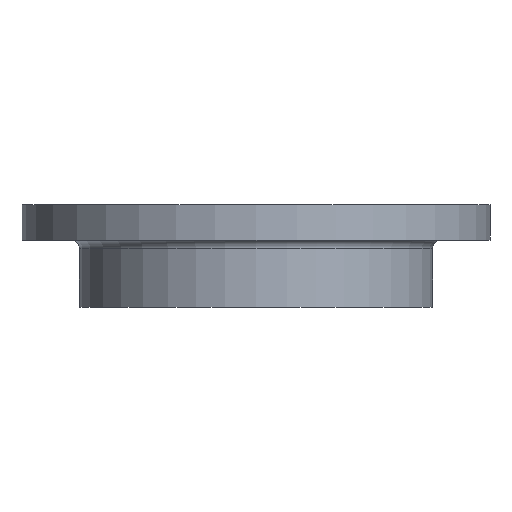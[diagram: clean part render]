
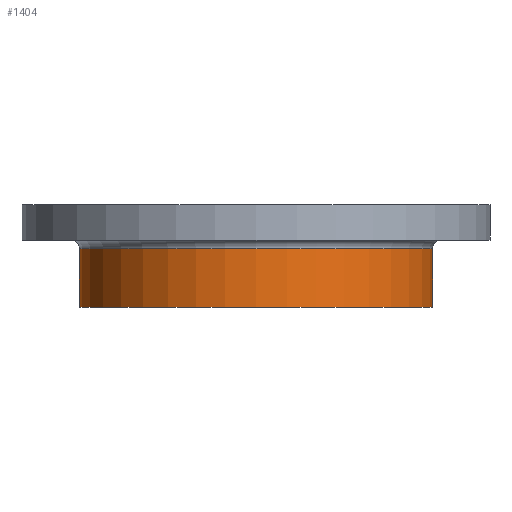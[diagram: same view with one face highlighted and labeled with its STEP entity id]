
A CAD part, front view. The second image highlights one B-rep face of the part: STEP entity #1404.
In plain terms, the highlighted cylindrical face has radius 249 mm (diameter 498 mm), a partial arc.
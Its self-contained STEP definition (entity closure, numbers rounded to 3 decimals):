
#22 = DIRECTION ( 'NONE',  ( 0., 0., 1. ) ) ;
#23 = CARTESIAN_POINT ( 'NONE',  ( 249., 0., 0. ) ) ;
#24 = LINE ( 'NONE', #23, #801 ) ;
#55 = VECTOR ( 'NONE', #896, 1000. ) ;
#159 = EDGE_CURVE ( 'NONE', #1360, #706, #24, .T. ) ;
#203 = EDGE_CURVE ( 'NONE', #1112, #706, #714, .T. ) ;
#205 = EDGE_LOOP ( 'NONE', ( #756, #759, #761, #768 ) ) ;
#246 = EDGE_CURVE ( 'NONE', #1385, #1112, #901, .T. ) ;
#281 = CIRCLE ( 'NONE', #288, 249. ) ;
#288 = AXIS2_PLACEMENT_3D ( 'NONE', #1342, #1341, #1340 ) ;
#310 = DIRECTION ( 'NONE',  ( 0., 0., 1. ) ) ;
#345 = CARTESIAN_POINT ( 'NONE',  ( 0., 0., -62. ) ) ;
#535 = EDGE_CURVE ( 'NONE', #1385, #1360, #281, .T. ) ;
#548 = AXIS2_PLACEMENT_3D ( 'NONE', #947, #946, #945 ) ;
#706 = VERTEX_POINT ( 'NONE', #1264 ) ;
#714 = CIRCLE ( 'NONE', #722, 249. ) ;
#722 = AXIS2_PLACEMENT_3D ( 'NONE', #345, #310, #1400 ) ;
#756 = ORIENTED_EDGE ( 'NONE', *, *, #246, .F. ) ;
#759 = ORIENTED_EDGE ( 'NONE', *, *, #535, .T. ) ;
#761 = ORIENTED_EDGE ( 'NONE', *, *, #159, .T. ) ;
#768 = ORIENTED_EDGE ( 'NONE', *, *, #203, .F. ) ;
#801 = VECTOR ( 'NONE', #22, 1000. ) ;
#896 = DIRECTION ( 'NONE',  ( 0., 0., 1. ) ) ;
#900 = CARTESIAN_POINT ( 'NONE',  ( -249., 0., 0. ) ) ;
#901 = LINE ( 'NONE', #900, #55 ) ;
#945 = DIRECTION ( 'NONE',  ( 1., 0., 0. ) ) ;
#946 = DIRECTION ( 'NONE',  ( 0., 0., 1. ) ) ;
#947 = CARTESIAN_POINT ( 'NONE',  ( 0., 0., 0. ) ) ;
#948 = CYLINDRICAL_SURFACE ( 'NONE', #548, 249. ) ;
#951 = FACE_OUTER_BOUND ( 'NONE', #205, .T. ) ;
#1004 = CARTESIAN_POINT ( 'NONE',  ( -249., 0., -145. ) ) ;
#1065 = CARTESIAN_POINT ( 'NONE',  ( 249., 0., -145. ) ) ;
#1112 = VERTEX_POINT ( 'NONE', #1146 ) ;
#1146 = CARTESIAN_POINT ( 'NONE',  ( -249., 0., -62. ) ) ;
#1264 = CARTESIAN_POINT ( 'NONE',  ( 249., 0., -62. ) ) ;
#1340 = DIRECTION ( 'NONE',  ( 1., 0., 0. ) ) ;
#1341 = DIRECTION ( 'NONE',  ( 0., 0., 1. ) ) ;
#1342 = CARTESIAN_POINT ( 'NONE',  ( 0., 0., -145. ) ) ;
#1360 = VERTEX_POINT ( 'NONE', #1065 ) ;
#1385 = VERTEX_POINT ( 'NONE', #1004 ) ;
#1400 = DIRECTION ( 'NONE',  ( 1., 0., 0. ) ) ;
#1404 = ADVANCED_FACE ( 'NONE', ( #951 ), #948, .T. ) ;
